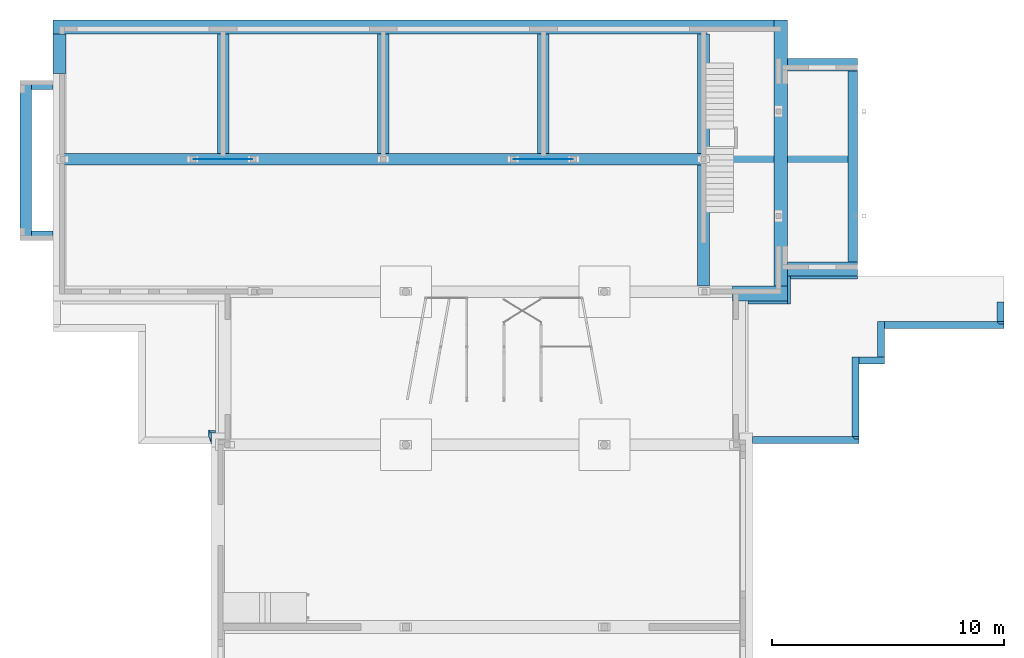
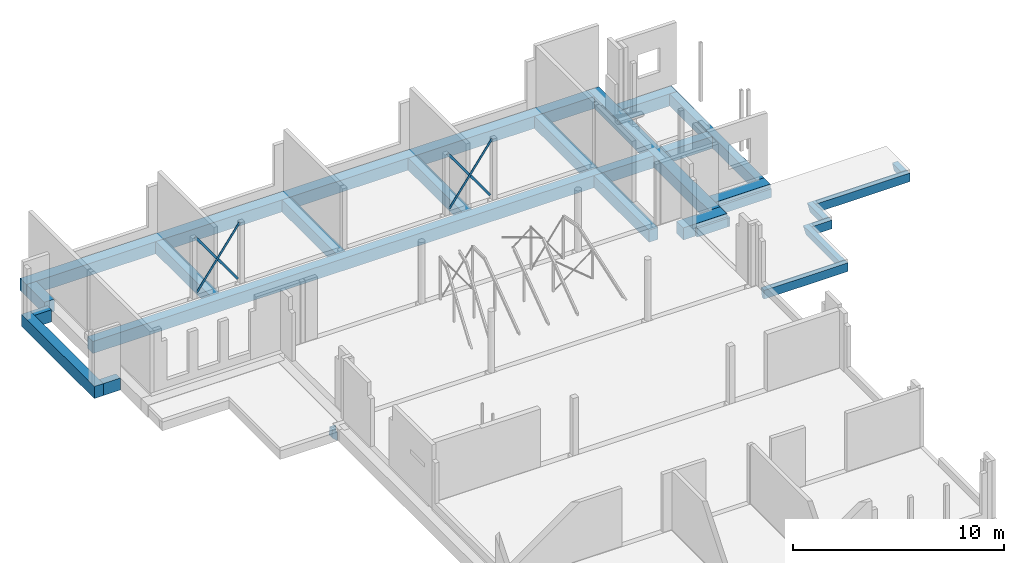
# One storey, part 11 of 17: 30 beams.
"""IFC2X3 building model written with IfcOpenShell, lengths in millimetres."""

from ifc_helpers import new_model, entity, si_unit, converted_unit, derived_unit, direction, frame, frame_2d, origin, place, context, subcontext, project, spatial, polyline, rectangle, outline, extrude, clip, halfspace, source, transform, mapped, material, type_object, type_shapes, element, save


model = new_model("IFC2X3")

# Units and contexts
model_context = context("Model", 3, precision=0.01, world=origin(), true_north=direction((6.123031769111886e-17, 1.0)))
body_context = subcontext(model_context, "Body", "Model", "MODEL_VIEW")
ifc_project = project(units=[si_unit("LENGTHUNIT", "METRE", prefix="MILLI"), si_unit("AREAUNIT", "SQUARE_METRE", prefix="MILLI"), si_unit("VOLUMEUNIT", "CUBIC_METRE"), converted_unit("PLANEANGLEUNIT", "DEGREE", entity("IfcPlaneAngleMeasure", 0.017453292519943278), si_unit("PLANEANGLEUNIT", "RADIAN"), dimensions=[0, 0, 0, 0, 0, 0, 0]), si_unit("MASSUNIT", "GRAM", prefix="KILO"), derived_unit("MASSDENSITYUNIT", [(si_unit("MASSUNIT", "GRAM", prefix="KILO"), 1), (si_unit("LENGTHUNIT", "METRE"), -3)]), derived_unit("IONCONCENTRATIONUNIT", [(si_unit("MASSUNIT", "GRAM", prefix="KILO"), 1), (si_unit("LENGTHUNIT", "METRE"), -3)]), derived_unit("MOMENTOFINERTIAUNIT", [(si_unit("LENGTHUNIT", "METRE"), 4)]), si_unit("TIMEUNIT", "SECOND"), si_unit("FREQUENCYUNIT", "HERTZ"), si_unit("THERMODYNAMICTEMPERATUREUNIT", "DEGREE_CELSIUS"), derived_unit("THERMALTRANSMITTANCEUNIT", [(si_unit("MASSUNIT", "GRAM", prefix="KILO"), 1), (si_unit("THERMODYNAMICTEMPERATUREUNIT", "KELVIN"), -1), (si_unit("TIMEUNIT", "SECOND"), -3)]), derived_unit("THERMALCONDUCTANCEUNIT", [(si_unit("MASSUNIT", "GRAM", prefix="KILO"), 1), (si_unit("THERMODYNAMICTEMPERATUREUNIT", "KELVIN"), -1), (si_unit("TIMEUNIT", "SECOND"), -3), (si_unit("LENGTHUNIT", "METRE"), 1)]), derived_unit("VOLUMETRICFLOWRATEUNIT", [(si_unit("LENGTHUNIT", "METRE", prefix="DECI"), 3), (si_unit("TIMEUNIT", "SECOND"), -1)]), derived_unit("MASSFLOWRATEUNIT", [(si_unit("MASSUNIT", "GRAM", prefix="KILO"), 1), (si_unit("TIMEUNIT", "SECOND"), -1)]), derived_unit("ROTATIONALFREQUENCYUNIT", [(si_unit("TIMEUNIT", "SECOND"), -1)]), si_unit("ELECTRICCURRENTUNIT", "AMPERE"), si_unit("ELECTRICVOLTAGEUNIT", "VOLT"), si_unit("POWERUNIT", "WATT"), si_unit("FORCEUNIT", "NEWTON", prefix="KILO"), si_unit("ILLUMINANCEUNIT", "LUX"), si_unit("LUMINOUSFLUXUNIT", "LUMEN"), si_unit("LUMINOUSINTENSITYUNIT", "CANDELA"), si_unit("ENERGYUNIT", "JOULE"), derived_unit("USERDEFINED", [(si_unit("MASSUNIT", "GRAM", prefix="KILO"), -1), (si_unit("LENGTHUNIT", "METRE"), -2), (si_unit("TIMEUNIT", "SECOND"), 3), (si_unit("LUMINOUSFLUXUNIT", "LUMEN"), 1)]), derived_unit("USERDEFINED", [(si_unit("MASSUNIT", "GRAM", prefix="KILO"), 1), (si_unit("TIMEUNIT", "SECOND"), -3), (si_unit("LENGTHUNIT", "METRE"), 3), (si_unit("ELECTRICCURRENTUNIT", "AMPERE"), -2)]), derived_unit("SOUNDPOWERUNIT", [(si_unit("MASSUNIT", "GRAM", prefix="KILO"), 1), (si_unit("TIMEUNIT", "SECOND"), -3), (si_unit("LENGTHUNIT", "METRE"), 2)]), derived_unit("SOUNDPRESSUREUNIT", [(si_unit("MASSUNIT", "GRAM", prefix="KILO"), 1), (si_unit("LENGTHUNIT", "METRE"), -1), (si_unit("TIMEUNIT", "SECOND"), -2)]), derived_unit("LINEARVELOCITYUNIT", [(si_unit("LENGTHUNIT", "METRE"), 1), (si_unit("TIMEUNIT", "SECOND"), -1)]), si_unit("PRESSUREUNIT", "PASCAL"), derived_unit("USERDEFINED", [(si_unit("MASSUNIT", "GRAM", prefix="KILO"), 1), (si_unit("LENGTHUNIT", "METRE"), -2), (si_unit("TIMEUNIT", "SECOND"), -2)]), derived_unit("LINEARFORCEUNIT", [(si_unit("MASSUNIT", "GRAM", prefix="KILO"), 1), (si_unit("TIMEUNIT", "SECOND"), -2)]), derived_unit("PLANARFORCEUNIT", [(si_unit("MASSUNIT", "GRAM", prefix="KILO"), 1), (si_unit("LENGTHUNIT", "METRE"), -1), (si_unit("TIMEUNIT", "SECOND"), -2)]), derived_unit("SPECIFICHEATCAPACITYUNIT", [(si_unit("THERMODYNAMICTEMPERATUREUNIT", "KELVIN"), -1), (si_unit("LENGTHUNIT", "METRE"), 2), (si_unit("TIMEUNIT", "SECOND"), -2)]), derived_unit("HEATFLUXDENSITYUNIT", [(si_unit("MASSUNIT", "GRAM", prefix="KILO"), 1), (si_unit("TIMEUNIT", "SECOND"), -3)]), derived_unit("HEATINGVALUEUNIT", [(si_unit("LENGTHUNIT", "METRE"), 2), (si_unit("TIMEUNIT", "SECOND"), -2)]), derived_unit("VAPORPERMEABILITYUNIT", [(si_unit("LENGTHUNIT", "METRE"), -1), (si_unit("TIMEUNIT", "SECOND"), 1)]), derived_unit("DYNAMICVISCOSITYUNIT", [(si_unit("MASSUNIT", "GRAM", prefix="KILO"), 1), (si_unit("TIMEUNIT", "SECOND"), -1), (si_unit("LENGTHUNIT", "METRE"), -1)]), derived_unit("THERMALEXPANSIONCOEFFICIENTUNIT", [(si_unit("THERMODYNAMICTEMPERATUREUNIT", "KELVIN"), -1)]), derived_unit("MODULUSOFELASTICITYUNIT", [(si_unit("MASSUNIT", "GRAM", prefix="KILO"), 1), (si_unit("LENGTHUNIT", "METRE"), -1), (si_unit("TIMEUNIT", "SECOND"), -2)]), derived_unit("ISOTHERMALMOISTURECAPACITYUNIT", [(si_unit("MASSUNIT", "GRAM", prefix="KILO"), -1), (si_unit("LENGTHUNIT", "METRE"), 3)]), derived_unit("MOISTUREDIFFUSIVITYUNIT", [(si_unit("TIMEUNIT", "SECOND"), -1), (si_unit("LENGTHUNIT", "METRE"), 2)]), derived_unit("MASSPERLENGTHUNIT", [(si_unit("MASSUNIT", "GRAM", prefix="KILO"), 1), (si_unit("LENGTHUNIT", "METRE"), -1)]), derived_unit("THERMALRESISTANCEUNIT", [(si_unit("MASSUNIT", "GRAM", prefix="KILO"), -1), (si_unit("TIMEUNIT", "SECOND"), 3), (si_unit("THERMODYNAMICTEMPERATUREUNIT", "KELVIN"), 1)]), derived_unit("ACCELERATIONUNIT", [(si_unit("LENGTHUNIT", "METRE"), 1), (si_unit("TIMEUNIT", "SECOND"), -2)]), derived_unit("ANGULARVELOCITYUNIT", [(si_unit("TIMEUNIT", "SECOND"), -1), (si_unit("PLANEANGLEUNIT", "RADIAN"), 1)]), derived_unit("LINEARSTIFFNESSUNIT", [(si_unit("MASSUNIT", "GRAM", prefix="KILO"), 1), (si_unit("TIMEUNIT", "SECOND"), -2)]), derived_unit("WARPINGCONSTANTUNIT", [(si_unit("LENGTHUNIT", "METRE"), 6)]), derived_unit("LINEARMOMENTUNIT", [(si_unit("MASSUNIT", "GRAM", prefix="KILO"), 1), (si_unit("LENGTHUNIT", "METRE"), 1), (si_unit("TIMEUNIT", "SECOND"), -2)]), derived_unit("TORQUEUNIT", [(si_unit("MASSUNIT", "GRAM", prefix="KILO"), 1), (si_unit("LENGTHUNIT", "METRE"), 2), (si_unit("TIMEUNIT", "SECOND"), -2)])], contexts=[model_context])

# Site, building, storey
site_placement = place(None, origin())
site = spatial("IfcSite", under=ifc_project, at=site_placement, Name="Default", CompositionType="ELEMENT")
building_placement = place(site_placement, origin())
building = spatial("IfcBuilding", under=site, at=building_placement, CompositionType="ELEMENT")
storey_placement = place(building_placement, frame((0.0, 0.0, -70.0)))
storey = spatial("IfcBuildingStorey", under=building, at=storey_placement, Name="F1 begg (bk ruwe vloer)", CompositionType="ELEMENT", Elevation=-69.99999999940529)

# Beams
ifc_material_1 = material(Name="Beton, ihwg C30/37")
beam_type_1 = type_object("IfcBeamType", Name="btl_ihwg - RBeam:600x700", PredefinedType="NOTDEFINED")
beam_1_placement = place(storey_placement, frame((31149.977194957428, 31537.573165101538, -410.0), z_axis=(0.0, 0.0, 1.0), x_axis=(0.0, 1.0, 0.0)))
element("IfcBeam", 1, at=beam_1_placement, inside=storey, type_object=beam_type_1, material=ifc_material_1, Name="btl_ihwg - RBeam:600x700", ObjectType="btl_ihwg - RBeam:600x700", context=body_context, shape_type="SweptSolid", body=[
    extrude(rectangle(XDim=699.9999999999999, YDim=600.0000000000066, at=frame_2d((-5.684341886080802e-14, -2.1884716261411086e-12), x_axis=(1.0, 0.0))), frame((650.0, 300.0, -350.0), z_axis=(1.0, 0.0, 0.0), x_axis=(0.0, 0.0, -1.0)), (0.0, 0.0, 1.0), 11457.000039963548),
])
beam_2_placement = place(storey_placement, frame((31149.97719495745, 43644.57320506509, -410.0), z_axis=(0.0, 0.0, 1.0), x_axis=(-1.0, 0.0, 0.0)))
element("IfcBeam", 2, at=beam_2_placement, inside=storey, type_object=beam_type_1, material=ifc_material_1, Name="btl_ihwg - RBeam:600x700", ObjectType="btl_ihwg - RBeam:600x700", context=body_context, shape_type="SweptSolid", body=[
    extrude(rectangle(XDim=699.9999999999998, YDim=600.0000000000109, at=frame_2d((-8.526512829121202e-14, 9.961809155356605e-11), x_axis=(1.0, 0.0))), frame((600.0, 300.0, -350.0), z_axis=(1.0, 0.0, 0.0), x_axis=(0.0, 0.0, -1.0)), (0.0, 0.0, 1.0), 31049.976807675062),
])
beam_3_placement = place(storey_placement, frame((34149.97719495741, 33214.90133006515, -410.0), z_axis=(0.0, 0.0, 1.0), x_axis=(-1.0, 0.0, 0.0)))
element("IfcBeam", 3, at=beam_3_placement, inside=storey, type_object=beam_type_1, material=ifc_material_1, Name="btl_ihwg - RBeam:600x700", ObjectType="btl_ihwg - RBeam:600x700", context=body_context, shape_type="SweptSolid", body=[
    extrude(rectangle(XDim=699.9999999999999, YDim=600.0000000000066, at=frame_2d((-5.684341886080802e-14, 1.0828671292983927e-11), x_axis=(1.0, 0.0))), frame((0.0, 300.0, -350.0), z_axis=(1.0, 0.0, 0.0), x_axis=(0.0, 0.0, -1.0)), (0.0, 0.0, 1.0), 3000.0000000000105),
])
ifc_material_2 = material(Name="Concrete - Cast-in-Place - C30/37")
beam_type_2 = type_object("IfcBeamType", Name="btl_ihwg - RBeam:550x700", PredefinedType="NOTDEFINED")
beam_4_placement = place(storey_placement, frame((-499.99961271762, 41344.57316510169, -410.0), z_axis=(0.0, 0.0, 1.0), x_axis=(0.0, 1.0, 0.0)))
element("IfcBeam", 4, at=beam_4_placement, inside=storey, type_object=beam_type_2, material=ifc_material_2, Name="btl_ihwg - RBeam:550x700", ObjectType="btl_ihwg - RBeam:550x700", context=body_context, shape_type="SweptSolid", body=[
    extrude(rectangle(XDim=699.9999999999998, YDim=550.0000000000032, at=frame_2d((-2.842170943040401e-14, 0.0), x_axis=(1.0, 0.0))), frame((0.0, -275.0, -350.0), z_axis=(1.0, 0.0, 0.0), x_axis=(0.0, 0.0, -1.0)), (0.0, 0.0, 1.0), 1700.0000399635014),
])
beam_5_placement = place(storey_placement, frame((34149.97719495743, 41994.57320506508, -410.0), z_axis=(0.0, 0.0, 1.0), x_axis=(-1.0, 0.0, 0.0)))
element("IfcBeam", 5, at=beam_5_placement, inside=storey, type_object=beam_type_2, material=ifc_material_2, Name="btl_ihwg - RBeam:550x700", ObjectType="btl_ihwg - RBeam:550x700", context=body_context, shape_type="SweptSolid", body=[
    extrude(rectangle(XDim=699.9999999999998, YDim=550.000000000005, at=frame_2d((-2.842170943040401e-14, 4.320099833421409e-12), x_axis=(1.0, 0.0))), frame((0.0, 275.0, -350.0), z_axis=(1.0, 0.0, 0.0), x_axis=(0.0, 0.0, -1.0)), (0.0, 0.0, 1.0), 2999.999999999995),
])
beam_type_3 = type_object("IfcBeamType", Name="btl_ihwg - RBeam:650x700", PredefinedType="NOTDEFINED")
beam_6_placement = place(storey_placement, frame((29324.982459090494, 31537.57316510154, -410.0)))
element("IfcBeam", 6, at=beam_6_placement, inside=storey, type_object=beam_type_3, material=ifc_material_2, Name="btl_ihwg - RBeam:650x700", ObjectType="btl_ihwg - RBeam:650x700", context=body_context, shape_type="SweptSolid", body=[
    extrude(rectangle(XDim=700.0, YDim=650.0000000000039, at=frame_2d((2.842170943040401e-14, 8.668621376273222e-12), x_axis=(1.0, 0.0))), frame((-550.0, 325.0, -350.0), z_axis=(1.0, 0.0, 0.0), x_axis=(0.0, 0.0, -1.0)), (0.0, 0.0, 1.0), 2374.9947358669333),
])
beam_type_4 = type_object("IfcBeamType", Name="btl_ihwg - RBeam:500x700", PredefinedType="BEAM", material=ifc_material_1)
beam_7_placement = place(storey_placement, frame((6825.000781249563, 43644.57320506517, -410.0), z_axis=(0.0, 0.0, 1.0), x_axis=(0.0, -1.0, 0.0)))
element("IfcBeam", 7, at=beam_7_placement, inside=storey, type_object=beam_type_4, material=ifc_material_1, Name="btl_ihwg - RBeam:500x700", ObjectType="btl_ihwg - RBeam:500x700", context=body_context, shape_type="SweptSolid", body=[
    extrude(rectangle(XDim=700.0000000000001, YDim=500.0000000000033, at=frame_2d((-5.684341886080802e-14, 0.0), x_axis=(1.0, 0.0))), frame((600.0, 0.0, -350.0), z_axis=(1.0, 0.0, 0.0), x_axis=(0.0, 0.0, -1.0)), (0.0, 0.0, 1.0), 5150.000000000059),
])
beam_8_placement = place(storey_placement, frame((13725.000781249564, 43644.57320506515, -410.0), z_axis=(0.0, 0.0, 1.0), x_axis=(0.0, -1.0, 0.0)))
element("IfcBeam", 8, at=beam_8_placement, inside=storey, type_object=beam_type_4, material=ifc_material_1, Name="btl_ihwg - RBeam:500x700", ObjectType="btl_ihwg - RBeam:500x700", context=body_context, shape_type="SweptSolid", body=[
    extrude(rectangle(XDim=700.0000000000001, YDim=500.0000000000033, at=frame_2d((-5.684341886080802e-14, 0.0), x_axis=(1.0, 0.0))), frame((600.0, 0.0, -350.0), z_axis=(1.0, 0.0, 0.0), x_axis=(0.0, 0.0, -1.0)), (0.0, 0.0, 1.0), 5150.00000000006),
])
beam_9_placement = place(storey_placement, frame((20624.984654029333, 43644.57320506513, -410.0), z_axis=(0.0, 0.0, 1.0), x_axis=(0.0, -1.0, 0.0)))
element("IfcBeam", 9, at=beam_9_placement, inside=storey, type_object=beam_type_4, material=ifc_material_1, Name="btl_ihwg - RBeam:500x700", ObjectType="btl_ihwg - RBeam:500x700", context=body_context, shape_type="SweptSolid", body=[
    extrude(rectangle(XDim=700.0000000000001, YDim=500.0000000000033, at=frame_2d((-5.684341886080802e-14, 2.1600499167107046e-12), x_axis=(1.0, 0.0))), frame((600.0, 0.0, -350.0), z_axis=(1.0, 0.0, 0.0), x_axis=(0.0, 0.0, -1.0)), (0.0, 0.0, 1.0), 5150.000000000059),
])
beam_10_placement = place(storey_placement, frame((-1675.0216093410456, 40939.26402445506, -410.0), z_axis=(0.0, 0.0, 1.0), x_axis=(0.0, -1.0, 0.0)))
element("IfcBeam", 10, at=beam_10_placement, inside=storey, type_object=beam_type_4, material=ifc_material_1, Name="btl_ihwg - RBeam:500x700", ObjectType="btl_ihwg - RBeam:500x700", context=body_context, shape_type="SweptSolid", body=[
    extrude(rectangle(XDim=700.0, YDim=500.0000000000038, at=frame_2d((2.842170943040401e-14, 0.0), x_axis=(1.0, 0.0))), frame((-105.0, 0.0, -350.0), z_axis=(1.0, 0.0, 0.0), x_axis=(0.0, 0.0, -1.0)), (0.0, 0.0, 1.0), 6900.326111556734),
])
beam_type_5 = type_object("IfcBeamType", Name="btl_ihwg - RBeam:500x700", PredefinedType="BEAM", material=ifc_material_1)
shared_shape_1 = source(origin(), body_context, "Body", "SweptSolid", [
    extrude(rectangle(XDim=700.0, YDim=500.0000000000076, at=frame_2d((2.842170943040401e-14, 2.1742607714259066e-12), x_axis=(1.0, 0.0))), frame((31149.977194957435, 37644.57320506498, -830.0), z_axis=(1.0, 0.0, 0.0), x_axis=(0.0, 0.0, -1.0)), (0.0, 0.0, 1.0), 2599.9999999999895),
    extrude(rectangle(XDim=700.0, YDim=500.0000000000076, at=frame_2d((2.842170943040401e-14, 8.880363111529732e-11), x_axis=(1.0, 0.0))), frame((-123.31465449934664, 37644.573205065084, -830.0), z_axis=(1.0, 0.0, 0.0), x_axis=(0.0, 0.0, -1.0)), (0.0, 0.0, 1.0), 30673.291849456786),
])
type_shapes(beam_type_5, [shared_shape_1])
beam_11_placement = place(storey_placement, frame((0.0, 0.0, 70.0)))
element("IfcBeam", 11, at=beam_11_placement, inside=storey, type_object=beam_type_5, material=ifc_material_1, Name="btl_ihwg - RBeam:500x700", ObjectType="btl_ihwg - RBeam:500x700", context=body_context, shape_type="MappedRepresentation", body=[
    mapped(shared_shape_1, transform((0.0, 0.0, 0.0), scale=1.0)),
])
beam_type_6 = type_object("IfcBeamType", Name="btl_ihwg - RBeam:500x700", PredefinedType="BEAM", material=ifc_material_1)
shared_shape_2 = source(origin(), body_context, "Body", "SweptSolid", [
    extrude(rectangle(XDim=700.0000000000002, YDim=500.0000000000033, at=frame_2d((-2.1600499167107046e-12, -8.526512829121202e-14), x_axis=(0.0, 1.0))), frame((27524.979520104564, 37394.5732050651, -830.0), z_axis=(0.0, -1.0, 0.0), x_axis=(-1.0, 0.0, 0.0)), (0.0, 0.0, 1.0), 5207.0000399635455),
    extrude(rectangle(XDim=700.0000000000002, YDim=500.0000000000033, at=frame_2d((-2.1600499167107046e-12, -8.526512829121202e-14), x_axis=(0.0, 1.0))), frame((27524.97952010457, 43044.57320506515, -830.0), z_axis=(0.0, -1.0, 0.0), x_axis=(-1.0, 0.0, 0.0)), (0.0, 0.0, 1.0), 5150.000000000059),
])
type_shapes(beam_type_6, [shared_shape_2])
beam_12_placement = place(storey_placement, frame((0.0, 0.0, 70.0)))
element("IfcBeam", 12, at=beam_12_placement, inside=storey, type_object=beam_type_6, material=ifc_material_1, Name="btl_ihwg - RBeam:500x700", ObjectType="btl_ihwg - RBeam:500x700", context=body_context, shape_type="MappedRepresentation", body=[
    mapped(shared_shape_2, transform((0.0, 0.0, 0.0), scale=1.0)),
])
beam_type_7 = type_object("IfcBeamType", Name="btl_ihwg - RBeam:400x700", PredefinedType="NOTDEFINED")
beam_13_placement = place(storey_placement, frame((34149.97719495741, 33214.90133006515, -410.0), z_axis=(0.0, 0.0, 1.0), x_axis=(0.0, 1.0, 0.0)))
element("IfcBeam", 13, at=beam_13_placement, inside=storey, type_object=beam_type_7, material=ifc_material_1, Name="btl_ihwg - RBeam:400x700", ObjectType="btl_ihwg - RBeam:400x700", context=body_context, shape_type="SweptSolid", body=[
    extrude(rectangle(XDim=699.9999999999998, YDim=400.0000000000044, at=frame_2d((-2.842170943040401e-14, 0.0), x_axis=(1.0, 0.0))), frame((0.0, 200.0, -350.0), z_axis=(1.0, 0.0, 0.0), x_axis=(0.0, 0.0, -1.0)), (0.0, 0.0, 1.0), 8229.67187499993),
])
beam_14_placement = place(storey_placement, frame((-1675.0216093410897, 34343.937912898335, -410.0)))
element("IfcBeam", 14, at=beam_14_placement, inside=storey, type_object=beam_type_7, material=ifc_material_1, Name="btl_ihwg - RBeam:400x700", ObjectType="btl_ihwg - RBeam:400x700", context=body_context, shape_type="SweptSolid", body=[
    extrude(rectangle(XDim=699.9999999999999, YDim=400.0000000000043, at=frame_2d((-5.684341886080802e-14, 4.334310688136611e-12), x_axis=(1.0, 0.0))), frame((250.0, 0.0, -350.0), z_axis=(1.0, 0.0, 0.0), x_axis=(0.0, 0.0, -1.0)), (0.0, 0.0, 1.0), 925.021996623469),
])
beam_15_placement = place(storey_placement, frame((-1675.0216093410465, 40844.23930705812, -410.0)))
element("IfcBeam", 15, at=beam_15_placement, inside=storey, type_object=beam_type_7, material=ifc_material_1, Name="btl_ihwg - RBeam:400x700", ObjectType="btl_ihwg - RBeam:400x700", context=body_context, shape_type="SweptSolid", body=[
    extrude(rectangle(XDim=699.9999999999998, YDim=400.0000000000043, at=frame_2d((-2.842170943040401e-14, 4.334310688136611e-12), x_axis=(1.0, 0.0))), frame((250.0, 0.0, -350.0), z_axis=(1.0, 0.0, 0.0), x_axis=(0.0, 0.0, -1.0)), (0.0, 0.0, 1.0), 925.0219966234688),
])
ifc_material_3 = material(Name="Metal - Steel - S235 JRG2 (standaard)")
beam_type_8 = type_object("IfcBeamType", Name="btl_staal - Strip b x h:120x15 Vwvb", PredefinedType="NOTDEFINED")
beam_16_placement = place(storey_placement, frame((5525.000781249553, 37644.573205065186, 3593.0), z_axis=(0.810139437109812, 0.0, 0.5862372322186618), x_axis=(0.5862372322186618, 0.0, -0.810139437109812)))
element("IfcBeam", 16, at=beam_16_placement, inside=storey, type_object=beam_type_8, material=ifc_material_3, Name="btl_staal - Strip b x h:120x15 Vwvb", ObjectType="btl_staal - Strip b x h:120x15 Vwvb", context=body_context, shape_type="SweptSolid", body=[
    extrude(rectangle(XDim=119.99999999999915, YDim=15.000000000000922, at=frame_2d((-4.369837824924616e-13, 0.0), x_axis=(1.0, 0.0))), frame((140.05367420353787, 0.0, 0.0), z_axis=(1.0, 0.0, 0.0), x_axis=(0.0, 0.0, -1.0)), (0.0, 0.0, 1.0), 3986.145203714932),
])
beam_17_placement = place(storey_placement, frame((5525.000781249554, 37644.57320506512, 0.0), z_axis=(0.8101394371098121, 0.0, -0.5862372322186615), x_axis=(0.5862372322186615, 0.0, 0.8101394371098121)))
element("IfcBeam", 17, at=beam_17_placement, inside=storey, type_object=beam_type_8, material=ifc_material_3, Name="btl_staal - Strip b x h:120x15 Vwvb", ObjectType="btl_staal - Strip b x h:120x15 Vwvb", context=body_context, shape_type="SweptSolid", body=[
    extrude(rectangle(XDim=120.00000000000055, YDim=15.00000000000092, at=frame_2d((-6.608047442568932e-13, 0.0), x_axis=(1.0, 0.0))), frame((308.8401232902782, 0.0, 0.0), z_axis=(1.0, 0.0, 0.0), x_axis=(0.0, 0.0, -1.0)), (0.0, 0.0, 1.0), 3986.145203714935),
])
beam_18_placement = place(storey_placement, frame((19324.98465402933, 37644.57320506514, 3593.0), z_axis=(0.8101378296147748, 0.0, 0.5862394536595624), x_axis=(0.5862394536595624, 0.0, -0.8101378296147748)))
element("IfcBeam", 18, at=beam_18_placement, inside=storey, type_object=beam_type_8, material=ifc_material_3, Name="btl_staal - Strip b x h:120x15 Vwvb", ObjectType="btl_staal - Strip b x h:120x15 Vwvb", context=body_context, shape_type="SweptSolid", body=[
    extrude(rectangle(XDim=120.00000000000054, YDim=15.00000000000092, at=frame_2d((0.0, 4.331646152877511e-12), x_axis=(1.0, 0.0))), frame((140.05409142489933, 0.0, 0.0), z_axis=(1.0, 0.0, 0.0), x_axis=(0.0, 0.0, -1.0)), (0.0, 0.0, 1.0), 3986.154873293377),
])
beam_19_placement = place(storey_placement, frame((19324.98465402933, 37644.57320506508, 0.0), z_axis=(0.8101394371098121, 0.0, -0.5862372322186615), x_axis=(0.5862372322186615, 0.0, 0.8101394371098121)))
element("IfcBeam", 19, at=beam_19_placement, inside=storey, type_object=beam_type_8, material=ifc_material_3, Name="btl_staal - Strip b x h:120x15 Vwvb", ObjectType="btl_staal - Strip b x h:120x15 Vwvb", context=body_context, shape_type="SweptSolid", body=[
    extrude(rectangle(XDim=119.99999999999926, YDim=15.000000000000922, at=frame_2d((7.105427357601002e-14, -4.331646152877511e-12), x_axis=(1.0, 0.0))), frame((308.8401232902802, 0.0, 0.0), z_axis=(1.0, 0.0, 0.0), x_axis=(0.0, 0.0, -1.0)), (0.0, 0.0, 1.0), 3986.1452037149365),
])
ifc_material_4 = material(Name="Concrete - Cast-in-Place - C20/25")
beam_type_9 = type_object("IfcBeamType", Name="btl_ihwg - RB 1x afschuining:b300/o200 x 500", PredefinedType="NOTDEFINED")
beam_20_placement = place(storey_placement, frame((29644.98577009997, 25546.43390846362, -610.0)))
element("IfcBeam", 20, at=beam_20_placement, inside=storey, type_object=beam_type_9, material=ifc_material_4, Name="btl_ihwg - RB 1x afschuining:b300/o200 x 500", ObjectType="btl_ihwg - RB 1x afschuining:b300/o200 x 500", context=body_context, shape_type="SweptSolid", body=[
    extrude(outline(polyline([(-250.0, -125.0), (250.0, -125.0), (250.0, 75.0), (-250.0, 175.0), (-250.0, -125.0)])), frame((0.0, -25.0, -250.0), z_axis=(1.0, 0.0, 0.0), x_axis=(0.0, 0.0, -1.0)), (0.0, 0.0, 1.0), 4579.996688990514),
])
beam_21_placement = place(storey_placement, frame((34074.98245909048, 25546.43390846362, -610.0), z_axis=(0.0, 0.0, 1.0), x_axis=(0.0, 1.0, 0.0)))
element("IfcBeam", 21, at=beam_21_placement, inside=storey, type_object=beam_type_9, material=ifc_material_4, Name="btl_ihwg - RB 1x afschuining:b300/o200 x 500", ObjectType="btl_ihwg - RB 1x afschuining:b300/o200 x 500", context=body_context, shape_type="SweptSolid", body=[
    clip(clip(extrude(outline(polyline([(-250.0, -125.0), (250.0, -125.0), (250.0, 75.0), (-250.0, 175.0), (-250.0, -125.0)])), frame((50.0, -25.0, -250.0), z_axis=(1.0, 0.0, 0.0), x_axis=(0.0, 0.0, -1.0)), (0.0, 0.0, 1.0), 3530.0000000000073), halfspace(frame((3480.0, 173.92908353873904, -500.0), z_axis=(0.9805806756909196, 0.0, -0.19611613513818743), x_axis=(0.0, -1.0, 0.0)), False)), halfspace(frame((100.0, 162.69999999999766, -250.0), z_axis=(-0.9805806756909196, 0.0, 0.1961161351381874), x_axis=(-0.1961161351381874, 0.0, -0.9805806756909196)), False)),
])
beam_22_placement = place(storey_placement, frame((34074.98245909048, 28976.43390846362, -610.0)))
element("IfcBeam", 22, at=beam_22_placement, inside=storey, type_object=beam_type_9, material=ifc_material_4, Name="btl_ihwg - RB 1x afschuining:b300/o200 x 500", ObjectType="btl_ihwg - RB 1x afschuining:b300/o200 x 500", context=body_context, shape_type="SweptSolid", body=[
    extrude(outline(polyline([(-250.0, -125.0), (250.0, -125.0), (250.0, 75.0), (-250.0, 175.0), (-250.0, -125.0)])), frame((150.0, -25.0, -250.0), z_axis=(1.0, 0.0, 0.0), x_axis=(0.0, 0.0, -1.0)), (0.0, 0.0, 1.0), 1100.0000000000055),
])
beam_23_placement = place(storey_placement, frame((35174.98245909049, 28976.43390846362, -610.0), z_axis=(0.0, 0.0, 1.0), x_axis=(0.0, 1.0, 0.0)))
element("IfcBeam", 23, at=beam_23_placement, inside=storey, type_object=beam_type_9, material=ifc_material_4, Name="btl_ihwg - RB 1x afschuining:b300/o200 x 500", ObjectType="btl_ihwg - RB 1x afschuining:b300/o200 x 500", context=body_context, shape_type="SweptSolid", body=[
    clip(clip(extrude(outline(polyline([(-250.0, -125.0), (250.0, -125.0), (250.0, 75.0), (-250.0, 175.0), (-250.0, -125.0)])), frame((50.0, -25.0, -250.0), z_axis=(1.0, 0.0, 0.0), x_axis=(0.0, 0.0, -1.0)), (0.0, 0.0, 1.0), 1620.0000000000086), halfspace(frame((1570.0, 173.92908353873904, -500.0), z_axis=(0.9805806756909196, 0.0, -0.19611613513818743), x_axis=(0.0, -1.0, 0.0)), False)), halfspace(frame((100.0, 162.700000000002, -250.0), z_axis=(-0.9805806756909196, 0.0, 0.1961161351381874), x_axis=(-0.1961161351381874, 0.0, -0.9805806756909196)), False)),
])
beam_24_placement = place(storey_placement, frame((35174.98245909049, 30496.43390846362, -610.0)))
element("IfcBeam", 24, at=beam_24_placement, inside=storey, type_object=beam_type_9, material=ifc_material_4, Name="btl_ihwg - RB 1x afschuining:b300/o200 x 500", ObjectType="btl_ihwg - RB 1x afschuining:b300/o200 x 500", context=body_context, shape_type="SweptSolid", body=[
    extrude(outline(polyline([(-250.0, -125.0), (250.0, -125.0), (250.0, 75.0), (-250.0, 175.0), (-250.0, -125.0)])), frame((150.0, -25.0, -250.0), z_axis=(1.0, 0.0, 0.0), x_axis=(0.0, 0.0, -1.0)), (0.0, 0.0, 1.0), 5145.0),
])
beam_25_placement = place(storey_placement, frame((40319.98245909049, 30496.43390846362, -610.0), z_axis=(0.0, 0.0, 1.0), x_axis=(0.0, 1.0, 0.0)))
element("IfcBeam", 25, at=beam_25_placement, inside=storey, type_object=beam_type_9, material=ifc_material_4, Name="btl_ihwg - RB 1x afschuining:b300/o200 x 500", ObjectType="btl_ihwg - RB 1x afschuining:b300/o200 x 500", context=body_context, shape_type="SweptSolid", body=[
    clip(extrude(outline(polyline([(-250.0, -125.0), (250.0, -125.0), (250.0, 75.0), (-250.0, 175.0), (-250.0, -125.0)])), frame((50.0, -25.0, -250.0), z_axis=(1.0, 0.0, 0.0), x_axis=(0.0, 0.0, -1.0)), (0.0, 0.0, 1.0), 950.0000000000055), halfspace(frame((100.0, 162.69999999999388, -250.0), z_axis=(-0.9805806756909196, 0.0, 0.1961161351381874), x_axis=(-0.1961161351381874, 0.0, -0.9805806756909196)), False)),
])
beam_type_10 = type_object("IfcBeamType", Name="btl_ihwg - RBeam:120x500", PredefinedType="NOTDEFINED")
beam_26_placement = place(storey_placement, frame((6565.002511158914, 25904.57757401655, -610.0), z_axis=(0.0, 0.0, 1.0), x_axis=(-1.0, 0.0, 0.0)))
element("IfcBeam", 26, at=beam_26_placement, inside=storey, type_object=beam_type_10, material=ifc_material_2, Name="btl_ihwg - RBeam:120x500", ObjectType="btl_ihwg - RBeam:120x500", context=body_context, shape_type="SweptSolid", body=[
    clip(extrude(rectangle(XDim=499.9999999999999, YDim=120.00000000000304, at=frame_2d((-7.105427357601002e-14, 2.1671553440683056e-12), x_axis=(1.0, 0.0))), frame((60.0, 0.0, -250.0), z_axis=(1.0, 0.0, 0.0), x_axis=(0.0, 0.0, -1.0)), (0.0, 0.0, 1.0), 300.03699484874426), halfspace(frame((240.03699484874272, 73.56919431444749, -2.0045861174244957), z_axis=(0.7438942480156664, 0.6680494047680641, -0.018202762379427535), x_axis=(-0.6682973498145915, 0.7436182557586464, -0.020261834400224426)), False)),
])
beam_27_placement = place(storey_placement, frame((6264.965516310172, 25904.57757401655, -610.0), z_axis=(0.0, -0.02723751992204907, 0.999628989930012), x_axis=(0.0, -0.999628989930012, -0.02723751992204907)))
element("IfcBeam", 27, at=beam_27_placement, inside=storey, type_object=beam_type_10, material=ifc_material_2, Name="btl_ihwg - RBeam:120x500", ObjectType="btl_ihwg - RBeam:120x500", context=body_context, shape_type="SweptSolid", body=[
    clip(clip(clip(extrude(rectangle(XDim=499.9999999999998, YDim=120.00000000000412, at=frame_2d((-5.400124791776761e-13, 2.1316282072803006e-13), x_axis=(0.0, 1.0))), frame((-59.97773939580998, 0.0, -250.0), z_axis=(1.0, 0.0, 0.0), x_axis=(0.0, 1.0, 0.0)), (0.0, 0.0, 1.0), 590.6871084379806), halfspace(frame((217.19071332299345, -59.99930635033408, 0.20400612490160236), z_axis=(0.36186620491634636, -0.9322246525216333, 0.00316969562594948), x_axis=(0.9321888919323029, 0.36188008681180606, 0.00816532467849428)), False)), halfspace(frame((73.59649935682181, 60.0, 0.0), z_axis=(-0.6682973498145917, 0.7438942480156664, 0.0), x_axis=(0.7438942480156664, 0.6682973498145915, 0.0)), False)), halfspace(frame((-5630.905692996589, -6739.963005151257, -153.4288296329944), z_axis=(-0.02723751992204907, 0.0, 0.999628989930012), x_axis=(-0.999628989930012, 0.0, -0.02723751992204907)), False)),
])
beam_28_placement = place(storey_placement, frame((31209.97719495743, 32554.901330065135, -610.0), z_axis=(0.0, 0.0, 1.0), x_axis=(0.0, -1.0, 0.0)))
element("IfcBeam", 28, at=beam_28_placement, inside=storey, type_object=beam_type_10, material=ifc_material_2, Name="btl_ihwg - RBeam:120x500", ObjectType="btl_ihwg - RBeam:120x500", context=body_context, shape_type="SweptSolid", body=[
    extrude(rectangle(XDim=499.9999999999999, YDim=120.00000000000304, at=frame_2d((-7.105427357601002e-14, 2.1671553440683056e-12), x_axis=(1.0, 0.0))), frame((-60.0, 0.0, -250.0), z_axis=(1.0, 0.0, 0.0), x_axis=(0.0, 0.0, -1.0)), (0.0, 0.0, 1.0), 1197.3281649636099),
])
beam_29_placement = place(storey_placement, frame((31209.97719495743, 31477.573165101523, -610.0), z_axis=(0.0, 0.0, 1.0), x_axis=(-1.0, 0.0, 0.0)))
element("IfcBeam", 29, at=beam_29_placement, inside=storey, type_object=beam_type_10, material=ifc_material_2, Name="btl_ihwg - RBeam:120x500", ObjectType="btl_ihwg - RBeam:120x500", context=body_context, shape_type="SweptSolid", body=[
    extrude(rectangle(XDim=499.9999999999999, YDim=120.00000000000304, at=frame_2d((-7.105427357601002e-14, 2.1671553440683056e-12), x_axis=(1.0, 0.0))), frame((60.0, 0.0, -250.0), z_axis=(1.0, 0.0, 0.0), x_axis=(0.0, 0.0, -1.0)), (0.0, 0.0, 1.0), 1704.9947358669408),
])
beam_30_placement = place(storey_placement, frame((34149.97719495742, 32554.90133006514, -610.0), z_axis=(0.0, 0.0, 1.0), x_axis=(-1.0, 0.0, 0.0)))
element("IfcBeam", 30, at=beam_30_placement, inside=storey, type_object=beam_type_10, material=ifc_material_2, Name="btl_ihwg - RBeam:120x500", ObjectType="btl_ihwg - RBeam:120x500", context=body_context, shape_type="SweptSolid", body=[
    extrude(rectangle(XDim=499.9999999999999, YDim=120.00000000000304, at=frame_2d((-7.105427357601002e-14, -6.497913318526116e-12), x_axis=(1.0, 0.0))), frame((0.0, 0.0, -250.0), z_axis=(1.0, 0.0, 0.0), x_axis=(0.0, 0.0, -1.0)), (0.0, 0.0, 1.0), 2879.999999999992),
])

save(model, "model.ifc")
